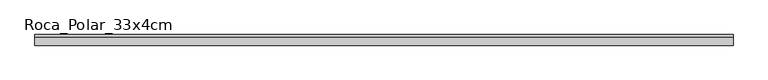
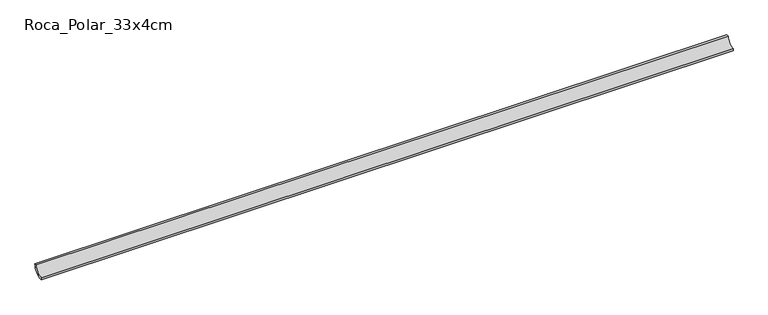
"""IFC4 building model written with IfcOpenShell, lengths in millimetres: proxy geometry, EXAGRES - Piscina Mediacaña : Roca_Polar_33x4cm."""

from ifc_helpers import new_model, si_unit, point, frame, frame_2d, origin, place, context, project, spatial, polyline, circle_curve, trimmed, segment, composite_curve, outline, extrude, source, transform, mapped, element, save


def roca_polar_33x4cm_80985e4a(model_context):
    return source(origin(), model_context, "Body", "SweptSolid", [
        extrude(outline(composite_curve([segment(polyline([(0.0, 23.9), (6.4, 23.9)]), True, "CONTINUOUS"), segment(trimmed(circle_curve(frame_2d((-23.9, 23.9)), 30.3), [point((6.4, 23.9))], [point((-23.9, -6.4))], False, "CARTESIAN"), True, "CONTINUOUS"), segment(polyline([(-23.9, -6.4), (-23.9, 0.0)]), True, "CONTINUOUS"), segment(trimmed(circle_curve(frame_2d((-23.9, 23.9)), 23.9), [point((-23.9, 0.0))], [point((0.0, 23.9))], True, "CARTESIAN"), True, "CONTINUOUS")], self_intersect=False)), frame((23.9, 0.0, 0.0), z_axis=(1.0, 0.0, 0.0), x_axis=(0.0, 1.0, 0.0)), (0.0, 0.0, 1.0), 1981.1),
    ])


if __name__ == "__main__":
    model = new_model("IFC4")
    model_context = context("Model", 3, world=origin())
    ifc_project = project(units=[si_unit("LENGTHUNIT", "METRE", prefix="MILLI")], contexts=[model_context])
    site = spatial("IfcSite", under=ifc_project)
    building = spatial("IfcBuilding", under=site)
    placement = place(None, origin())
    roca_polar_33x4cm_shape = roca_polar_33x4cm_80985e4a(model_context)
    element("IfcBuildingElementProxy", 1, Name="EXAGRES - Piscina Mediacaña : Roca_Polar_33x4cm", ObjectType="EXAGRES - Piscina Mediacaña : Roca_Polar_33x4cm", at=placement, inside=building, context=model_context, shape_type="MappedRepresentation", body=[
        mapped(roca_polar_33x4cm_shape, transform((0.0, 0.0, 0.0), x_axis=(1.0, 0.0, 0.0), y_axis=(0.0, 1.0, 0.0), z_axis=(0.0, 0.0, 1.0))),
    ])
    save(model, "model.ifc")
